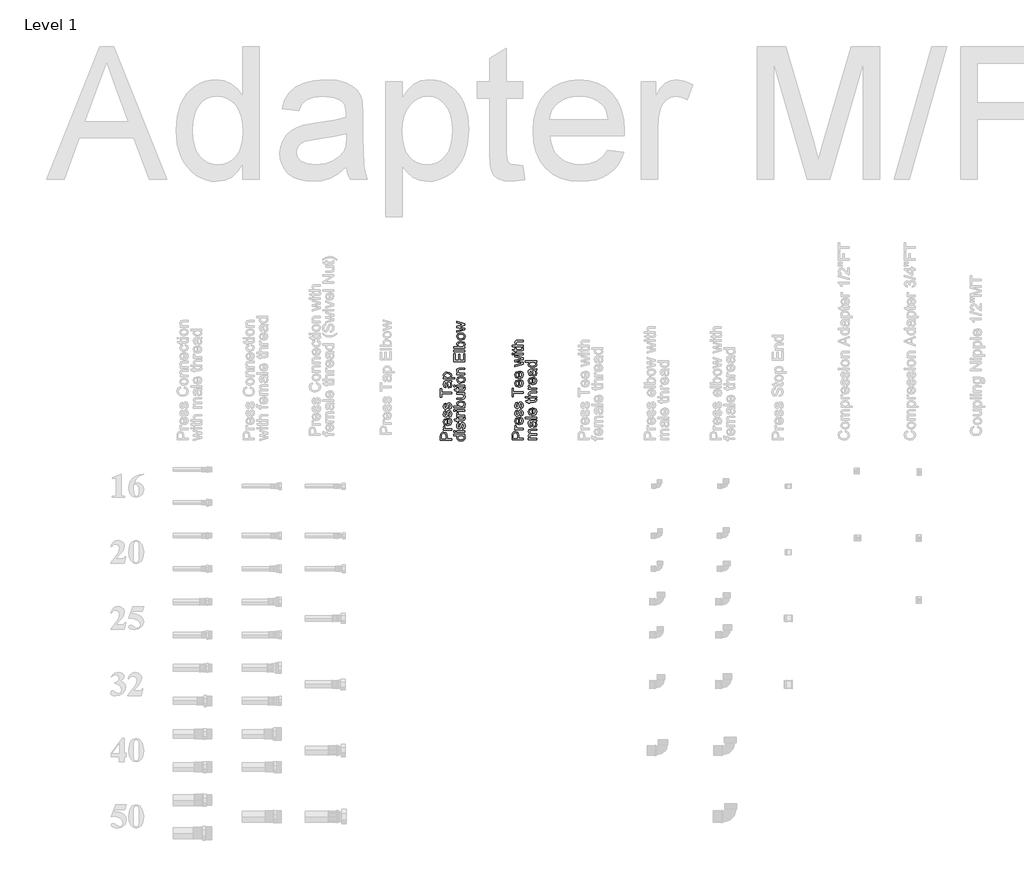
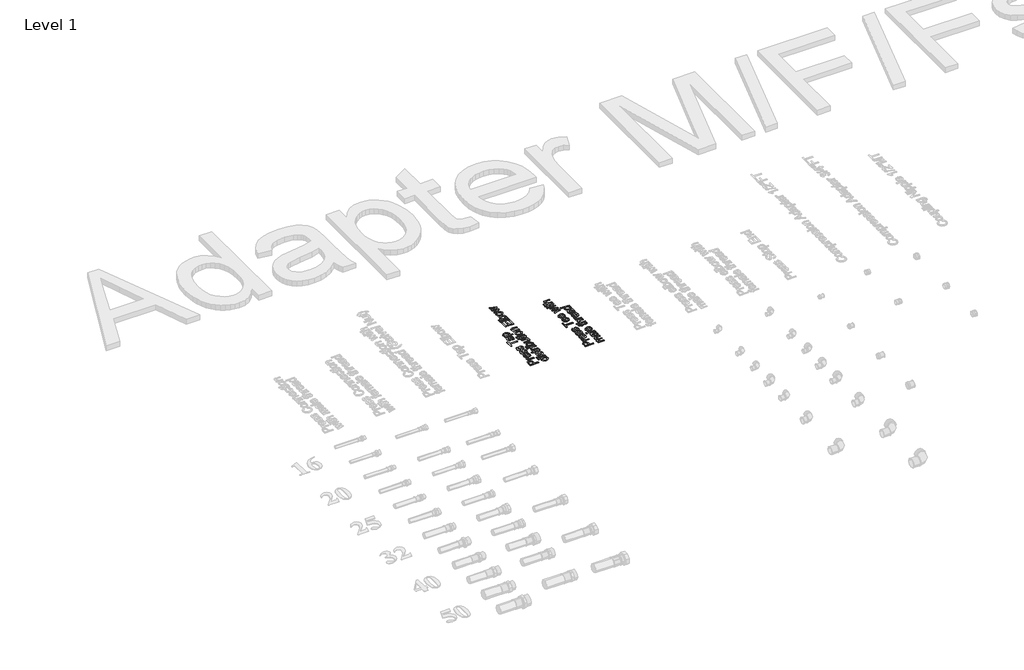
# One storey, part 43 of 57: 2 proxies.
"""IFC4 building model written with IfcOpenShell, lengths in millimetres."""

from ifc_helpers import new_model, si_unit, frame, origin, place, context, project, spatial, polyline, outline, extrude, element, save

model = new_model("IFC4")

# Units and contexts
model_context = context("Model", 3, world=origin())
ifc_project = project(units=[si_unit("LENGTHUNIT", "METRE", prefix="MILLI")], contexts=[model_context])

# Site, building, storey
site = spatial("IfcSite", under=ifc_project)
building = spatial("IfcBuilding", under=site)
storey = spatial("IfcBuildingStorey", under=building, Name="Level 1", Elevation=27.3876384)

# Proxies
placement = place(None, origin())
element("IfcBuildingElementProxy", 1, Name="50mm Arial", ObjectType="50mm Arial", at=placement, inside=storey, context=model_context, shape_type="SweptSolid", body=[
    extrude(outline(polyline([(30614.4451568, 30403.4276086), (30564.2170017, 30403.4276086), (30564.2170017, 30422.0424376), (30564.6952483, 30429.5472303), (30567.0435617, 30435.64794), (30571.8996041, 30439.6026715), (30578.7483405, 30441.0987249), (30589.6008594, 30437.0581543), (30594.0399688, 30422.4716332), (30594.0399688, 30409.706128), (30614.4451568, 30409.706128), (30614.4451568, 30403.4276086)]), holes=[polyline([(30587.7614494, 30409.706128), (30587.7614494, 30422.8395152), (30585.4560556, 30432.085616), (30578.9690697, 30434.8202055), (30573.7696709, 30433.2076561), (30570.9247168, 30428.9708818), (30570.4955211, 30422.6923624), (30570.4955211, 30409.706128), (30587.7614494, 30409.706128)])]), frame((0.0, 0.0, 27.3876384), z_axis=(0.0, 0.0, 1.0), x_axis=(1.0, 0.0, 0.0)), (0.0, 0.0, 1.0), 2.0),
    extrude(outline(polyline([(30614.4451568, 30448.9468741), (30577.5588554, 30448.9468741), (30577.5588554, 30454.4405786), (30583.0157717, 30454.4405786), (30577.9880511, 30458.3401278), (30576.7740405, 30462.2642024), (30578.7115523, 30468.5672472), (30584.3401469, 30466.4703199), (30583.0525599, 30462.0557359), (30584.2910959, 30458.5056747), (30587.7246612, 30456.2432004), (30595.0577757, 30455.2253935), (30614.4451568, 30455.2253935), (30614.4451568, 30448.9468741)])), frame((0.0, 0.0, 27.3876384), z_axis=(0.0, 0.0, 1.0), x_axis=(1.0, 0.0, 0.0)), (0.0, 0.0, 1.0), 2.0),
    extrude(outline(polyline([(30603.4577479, 30498.3166379), (30604.2425628, 30504.47253), (30612.3482294, 30498.7151767), (30615.2299717, 30487.9914166), (30610.2574334, 30474.9561312), (30596.3085744, 30470.1368771), (30581.899863, 30475.0051821), (30576.7740405, 30487.6357973), (30581.8876002, 30499.9046618), (30596.2717862, 30504.6687337), (30597.9640434, 30504.6319455), (30597.9640434, 30476.4153965), (30606.118761, 30480.0267714), (30608.9514523, 30488.1140439), (30607.6393399, 30494.269936), (30603.4577479, 30498.3166379)]), holes=[polyline([(30591.685524, 30476.4153965), (30591.685524, 30498.3902143), (30585.9956158, 30495.876354), (30583.0525599, 30487.6112718), (30585.4008733, 30479.8796186), (30591.685524, 30476.4153965)])]), frame((0.0, 0.0, 27.3876384), z_axis=(0.0, 0.0, 1.0), x_axis=(1.0, 0.0, 0.0)), (0.0, 0.0, 1.0), 2.0),
    extrude(outline(polyline([(30603.4577479, 30508.5928083), (30602.672933, 30514.8713277), (30607.3327716, 30517.7775954), (30608.9514523, 30524.4362596), (30607.4676616, 30530.8374063), (30603.9850454, 30532.9220709), (30601.1646168, 30530.8251435), (30599.3742577, 30524.3626832), (30596.3024431, 30514.9081159), (30592.7155936, 30510.7817062), (30587.6510848, 30509.3776232), (30582.9728521, 30510.5057947), (30579.3982654, 30513.5837407), (30577.5404613, 30517.5752603), (30576.7740405, 30522.9769943), (30578.0064452, 30530.6166771), (30581.3419086, 30535.4727194), (30586.9766345, 30537.6309605), (30587.7614494, 30531.3524411), (30584.2972273, 30528.9918649), (30583.0525599, 30523.4675036), (30584.242045, 30517.4587644), (30587.0134227, 30515.6561426), (30588.8405699, 30516.4041693), (30590.2262588, 30518.7463514), (30591.5628967, 30524.1542167), (30594.5182154, 30533.3696607), (30597.8659416, 30537.6493546), (30603.3228578, 30539.2005903), (30609.3315971, 30537.3795744), (30613.6909987, 30532.1249933), (30615.2299717, 30524.3504204), (30612.2623903, 30513.3997997), (30603.4577479, 30508.5928083)])), frame((0.0, 0.0, 27.3876384), z_axis=(0.0, 0.0, 1.0), x_axis=(1.0, 0.0, 0.0)), (0.0, 0.0, 1.0), 2.0),
    extrude(outline(polyline([(30603.4577479, 30543.9094798), (30602.672933, 30550.1879992), (30607.3327716, 30553.094267), (30608.9514523, 30559.7529311), (30607.4676616, 30566.1540778), (30603.9850454, 30568.2387424), (30601.1646168, 30566.1418151), (30599.3742577, 30559.6793547), (30596.3024431, 30550.2247874), (30592.7155936, 30546.0983777), (30587.6510848, 30544.6942948), (30582.9728521, 30545.8224662), (30579.3982654, 30548.9004122), (30577.5404613, 30552.8919319), (30576.7740405, 30558.2936658), (30578.0064452, 30565.9333486), (30581.3419086, 30570.7893909), (30586.9766345, 30572.947632), (30587.7614494, 30566.6691126), (30584.2972273, 30564.3085365), (30583.0525599, 30558.7841752), (30584.242045, 30552.7754359), (30587.0134227, 30550.9728141), (30588.8405699, 30551.7208409), (30590.2262588, 30554.0630229), (30591.5628967, 30559.4708882), (30594.5182154, 30568.6863322), (30597.8659416, 30572.9660261), (30603.3228578, 30574.5172618), (30609.3315971, 30572.696246), (30613.6909987, 30567.4416648), (30615.2299717, 30559.667092), (30612.2623903, 30548.7164712), (30603.4577479, 30543.9094798)])), frame((0.0, 0.0, 27.3876384), z_axis=(0.0, 0.0, 1.0), x_axis=(1.0, 0.0, 0.0)), (0.0, 0.0, 1.0), 2.0),
    extrude(outline(polyline([(30614.4451568, 30614.5428229), (30570.4955211, 30614.5428229), (30570.4955211, 30598.0617095), (30564.2170017, 30598.0617095), (30564.2170017, 30637.3024557), (30570.4955211, 30637.3024557), (30570.4955211, 30620.8213423), (30614.4451568, 30620.8213423), (30614.4451568, 30614.5428229)])), frame((0.0, 0.0, 27.3876384), z_axis=(0.0, 0.0, 1.0), x_axis=(1.0, 0.0, 0.0)), (0.0, 0.0, 1.0), 2.0),
    extrude(outline(polyline([(30609.7362673, 30667.1254228), (30613.9914357, 30661.0369757), (30615.2299717, 30654.3108666), (30612.2501276, 30645.1935245), (30604.6349703, 30642.0113452), (30599.6685633, 30643.2130931), (30596.0633198, 30646.3707469), (30594.0031806, 30650.7669367), (30593.0589502, 30656.1993275), (30590.9007091, 30667.0886346), (30584.8674444, 30665.3963774), (30583.0525599, 30658.4556704), (30584.2604391, 30652.1035746), (30588.5462643, 30649.0746795), (30587.7614494, 30642.7961601), (30581.6300828, 30645.5123555), (30578.037102, 30650.9815345), (30576.7740405, 30659.2650108), (30577.8899492, 30666.8740367), (30580.6919837, 30671.1721247), (30584.9532835, 30673.0973738), (30590.446988, 30673.4039421), (30598.258349, 30673.4039421), (30609.1660502, 30673.7227732), (30614.4451568, 30674.973572), (30614.4451568, 30668.6950526), (30609.7362673, 30667.1254228)]), holes=[polyline([(30597.1792285, 30667.1254228), (30599.1044776, 30656.9964052), (30600.1222845, 30651.5946712), (30601.7777534, 30649.1482559), (30604.1935119, 30648.2898646), (30607.590289, 30650.1599314), (30608.9514523, 30655.6475045), (30607.4492675, 30661.9996003), (30603.8133671, 30666.0953532), (30598.9573248, 30667.0886346), (30597.1792285, 30667.1254228)])]), frame((0.0, 0.0, 27.3876384), z_axis=(0.0, 0.0, 1.0), x_axis=(1.0, 0.0, 0.0)), (0.0, 0.0, 1.0), 2.0),
    extrude(outline(polyline([(30628.5718254, 30682.0369063), (30577.5588554, 30682.0369063), (30577.5588554, 30688.3154257), (30583.7147475, 30688.3154257), (30578.5092172, 30692.6564332), (30576.7740405, 30698.5180197), (30579.2020617, 30706.4765335), (30586.0446668, 30711.6759324), (30595.7199633, 30713.4295032), (30605.8919004, 30711.4490718), (30612.8203447, 30705.6978499), (30615.2299717, 30697.7577302), (30613.6174223, 30692.2946826), (30609.5400635, 30688.3154257), (30628.5718254, 30688.3154257), (30628.5718254, 30682.0369063)]), holes=[polyline([(30596.2963117, 30688.3154257), (30605.8612436, 30691.0316211), (30608.9514523, 30697.6228402), (30605.750879, 30704.3489493), (30595.8303278, 30707.1509838), (30586.2408705, 30704.4163943), (30583.0525599, 30697.8803576), (30586.4432056, 30691.2155621), (30596.2963117, 30688.3154257)])]), frame((0.0, 0.0, 27.3876384), z_axis=(0.0, 0.0, 1.0), x_axis=(1.0, 0.0, 0.0)), (0.0, 0.0, 1.0), 2.0),
    extrude(outline(polyline([(30675.4325657, 30425.4024265), (30669.5096656, 30425.4024265), (30674.5404519, 30421.2484256), (30676.2173807, 30415.5064008), (30673.7893595, 30407.731828), (30667.0141994, 30402.2381235), (30657.0262032, 30400.2883489), (30647.0320757, 30402.0848393), (30640.1526824, 30407.4681792), (30637.7614494, 30415.4818753), (30639.4721007, 30421.2698854), (30643.9173415, 30425.4024265), (30625.2044107, 30425.4024265), (30625.2044107, 30431.6809458), (30675.4325657, 30431.6809458), (30675.4325657, 30425.4024265)]), holes=[polyline([(30657.0016778, 30406.5668683), (30666.7198938, 30409.3995597), (30669.9388613, 30416.0827492), (30666.8670466, 30422.6862311), (30657.4799244, 30425.4024265), (30647.2895931, 30422.6371801), (30644.0399688, 30415.8252318), (30647.1608344, 30409.2156187), (30657.0016778, 30406.5668683)])]), frame((0.0, 0.0, 27.3876384), z_axis=(0.0, 0.0, 1.0), x_axis=(1.0, 0.0, 0.0)), (0.0, 0.0, 1.0), 2.0),
    extrude(outline(polyline([(30631.48293, 30441.0987249), (30625.2044107, 30441.0987249), (30625.2044107, 30447.3772443), (30631.48293, 30447.3772443), (30631.48293, 30441.0987249)])), frame((0.0, 0.0, 27.3876384), z_axis=(0.0, 0.0, 1.0), x_axis=(1.0, 0.0, 0.0)), (0.0, 0.0, 1.0), 2.0),
    extrude(outline(polyline([(30675.4325657, 30441.0987249), (30638.5462643, 30441.0987249), (30638.5462643, 30447.3772443), (30675.4325657, 30447.3772443), (30675.4325657, 30441.0987249)])), frame((0.0, 0.0, 27.3876384), z_axis=(0.0, 0.0, 1.0), x_axis=(1.0, 0.0, 0.0)), (0.0, 0.0, 1.0), 2.0),
    extrude(outline(polyline([(30664.4451568, 30454.4405786), (30663.6603419, 30460.719098), (30668.3201805, 30463.6253658), (30669.9388613, 30470.2840299), (30668.4550706, 30476.6851766), (30664.9724543, 30478.7698412), (30662.1520257, 30476.6729139), (30660.3616667, 30470.2104535), (30657.289852, 30460.7558862), (30653.7030025, 30456.6294765), (30648.6384937, 30455.2253935), (30643.960261, 30456.353565), (30640.3856743, 30459.431511), (30638.5278702, 30463.4230307), (30637.7614494, 30468.8247646), (30638.9938541, 30476.4644474), (30642.3293175, 30481.3204897), (30647.9640434, 30483.4787308), (30648.7488583, 30477.2002114), (30645.2846362, 30474.8396352), (30644.0399688, 30469.3152739), (30645.2294539, 30463.3065347), (30648.0008316, 30461.5039129), (30649.8279789, 30462.2519396), (30651.2136677, 30464.5941217), (30652.5503056, 30470.001987), (30655.5056243, 30479.217431), (30658.8533505, 30483.4971249), (30664.3102667, 30485.0483606), (30670.319006, 30483.2273447), (30674.6784076, 30477.9727636), (30676.2173807, 30470.1981907), (30673.2497992, 30459.24757), (30664.4451568, 30454.4405786)])), frame((0.0, 0.0, 27.3876384), z_axis=(0.0, 0.0, 1.0), x_axis=(1.0, 0.0, 0.0)), (0.0, 0.0, 1.0), 2.0),
    extrude(outline(polyline([(30670.1963787, 30505.4535486), (30675.6165067, 30506.2383635), (30676.2173807, 30501.5417367), (30675.1750483, 30496.2810242), (30672.4404588, 30493.6567993), (30665.3158109, 30492.8965098), (30644.8247837, 30492.8965098), (30644.8247837, 30488.1876203), (30638.5462643, 30488.1876203), (30638.5462643, 30492.8965098), (30629.5822064, 30492.8965098), (30625.8911237, 30499.1750292), (30638.5462643, 30499.1750292), (30638.5462643, 30505.4535486), (30644.8247837, 30505.4535486), (30644.8247837, 30499.1750292), (30665.1318699, 30499.1750292), (30668.3692314, 30499.506123), (30669.9388613, 30502.7189591), (30670.1963787, 30505.4535486)])), frame((0.0, 0.0, 27.3876384), z_axis=(0.0, 0.0, 1.0), x_axis=(1.0, 0.0, 0.0)), (0.0, 0.0, 1.0), 2.0),
    extrude(outline(polyline([(30675.4325657, 30511.732068), (30638.5462643, 30511.732068), (30638.5462643, 30517.2257725), (30644.0031806, 30517.2257725), (30638.97546, 30521.1253216), (30637.7614494, 30525.0493962), (30639.6989613, 30531.3524411), (30645.3275558, 30529.2555137), (30644.0399688, 30524.8409298), (30645.2785049, 30521.2908685), (30648.7120701, 30519.0283942), (30656.0451846, 30518.0105874), (30675.4325657, 30518.0105874), (30675.4325657, 30511.732068)])), frame((0.0, 0.0, 27.3876384), z_axis=(0.0, 0.0, 1.0), x_axis=(1.0, 0.0, 0.0)), (0.0, 0.0, 1.0), 2.0),
    extrude(outline(polyline([(30631.48293, 30535.2765157), (30625.2044107, 30535.2765157), (30625.2044107, 30541.5550351), (30631.48293, 30541.5550351), (30631.48293, 30535.2765157)])), frame((0.0, 0.0, 27.3876384), z_axis=(0.0, 0.0, 1.0), x_axis=(1.0, 0.0, 0.0)), (0.0, 0.0, 1.0), 2.0),
    extrude(outline(polyline([(30675.4325657, 30535.2765157), (30638.5462643, 30535.2765157), (30638.5462643, 30541.5550351), (30675.4325657, 30541.5550351), (30675.4325657, 30535.2765157)])), frame((0.0, 0.0, 27.3876384), z_axis=(0.0, 0.0, 1.0), x_axis=(1.0, 0.0, 0.0)), (0.0, 0.0, 1.0), 2.0),
    extrude(outline(polyline([(30675.4325657, 30557.2513335), (30675.4325657, 30550.9728141), (30625.2044107, 30550.9728141), (30625.2044107, 30557.2513335), (30643.8315023, 30557.2513335), (30637.7614494, 30567.110571), (30639.1287442, 30573.4013531), (30642.973111, 30578.2819209), (30648.9511934, 30581.2801592), (30656.437592, 30582.3654111), (30671.05477, 30577.8711194), (30676.2173807, 30567.0737828), (30674.5527146, 30561.4911735), (30669.5587165, 30557.2513335), (30675.4325657, 30557.2513335)]), holes=[polyline([(30656.7318976, 30557.2513335), (30665.5120146, 30558.9681162), (30669.9388613, 30566.5342225), (30666.6769742, 30573.2542003), (30656.9526268, 30576.0868917), (30647.1914912, 30573.3706963), (30644.0399688, 30566.8040027), (30647.3018558, 30560.0840249), (30656.7318976, 30557.2513335)])]), frame((0.0, 0.0, 27.3876384), z_axis=(0.0, 0.0, 1.0), x_axis=(1.0, 0.0, 0.0)), (0.0, 0.0, 1.0), 2.0),
    extrude(outline(polyline([(30675.4325657, 30612.9731931), (30669.0927327, 30612.9731931), (30674.4362187, 30608.0558371), (30676.2173807, 30601.6424276), (30674.9665819, 30595.7379216), (30671.8273222, 30591.6666942), (30667.2042718, 30589.7966274), (30661.3672108, 30589.4287454), (30638.5462643, 30589.4287454), (30638.5462643, 30595.7072648), (30658.4118921, 30595.7072648), (30664.8130388, 30596.0874095), (30668.5715665, 30598.570613), (30669.9388613, 30603.2488457), (30668.5409097, 30608.4911641), (30664.733331, 30611.9553862), (30657.7374418, 30612.9731931), (30638.5462643, 30612.9731931), (30638.5462643, 30619.2517124), (30675.4325657, 30619.2517124), (30675.4325657, 30612.9731931)])), frame((0.0, 0.0, 27.3876384), z_axis=(0.0, 0.0, 1.0), x_axis=(1.0, 0.0, 0.0)), (0.0, 0.0, 1.0), 2.0),
    extrude(outline(polyline([(30670.1963787, 30641.2265303), (30675.6165067, 30642.0113452), (30676.2173807, 30637.3147184), (30675.1750483, 30632.0540059), (30672.4404588, 30629.429781), (30665.3158109, 30628.6694915), (30644.8247837, 30628.6694915), (30644.8247837, 30623.960602), (30638.5462643, 30623.960602), (30638.5462643, 30628.6694915), (30629.5822064, 30628.6694915), (30625.8911237, 30634.9480109), (30638.5462643, 30634.9480109), (30638.5462643, 30641.2265303), (30644.8247837, 30641.2265303), (30644.8247837, 30634.9480109), (30665.1318699, 30634.9480109), (30668.3692314, 30635.2791047), (30669.9388613, 30638.4919408), (30670.1963787, 30641.2265303)])), frame((0.0, 0.0, 27.3876384), z_axis=(0.0, 0.0, 1.0), x_axis=(1.0, 0.0, 0.0)), (0.0, 0.0, 1.0), 2.0),
    extrude(outline(polyline([(30631.48293, 30647.5050497), (30625.2044107, 30647.5050497), (30625.2044107, 30653.7835691), (30631.48293, 30653.7835691), (30631.48293, 30647.5050497)])), frame((0.0, 0.0, 27.3876384), z_axis=(0.0, 0.0, 1.0), x_axis=(1.0, 0.0, 0.0)), (0.0, 0.0, 1.0), 2.0),
    extrude(outline(polyline([(30675.4325657, 30647.5050497), (30638.5462643, 30647.5050497), (30638.5462643, 30653.7835691), (30675.4325657, 30653.7835691), (30675.4325657, 30647.5050497)])), frame((0.0, 0.0, 27.3876384), z_axis=(0.0, 0.0, 1.0), x_axis=(1.0, 0.0, 0.0)), (0.0, 0.0, 1.0), 2.0),
    extrude(outline(polyline([(30656.989415, 30661.6317183), (30648.0958678, 30662.989816), (30641.8449396, 30667.0641091), (30637.7614494, 30678.1250944), (30642.7339877, 30689.9892888), (30656.4743802, 30694.5939451), (30667.6457302, 30692.5583314), (30673.9671691, 30686.6292999), (30676.2173807, 30678.1250944), (30671.2632364, 30666.1873237), (30656.989415, 30661.6317183)]), holes=[polyline([(30656.9771523, 30667.9102377), (30666.7076311, 30670.8165054), (30669.9388613, 30678.1250944), (30666.689237, 30685.4091579), (30656.7809486, 30688.3154257), (30647.271199, 30685.3907638), (30644.0399688, 30678.1250944), (30647.2589363, 30670.8165054), (30656.9771523, 30667.9102377)])]), frame((0.0, 0.0, 27.3876384), z_axis=(0.0, 0.0, 1.0), x_axis=(1.0, 0.0, 0.0)), (0.0, 0.0, 1.0), 2.0),
    extrude(outline(polyline([(30675.4325657, 30701.6572794), (30638.5462643, 30701.6572794), (30638.5462643, 30707.9357988), (30643.6966123, 30707.9357988), (30639.2452401, 30712.7366588), (30637.7614494, 30719.2910897), (30638.9570659, 30725.2201212), (30642.0963256, 30729.2668231), (30646.7132446, 30731.1491526), (30652.7832976, 30731.4802464), (30675.4325657, 30731.4802464), (30675.4325657, 30725.2017271), (30653.6294261, 30725.2017271), (30648.074408, 30724.4782258), (30645.1374834, 30721.9214459), (30644.0399688, 30717.6110952), (30646.5047782, 30710.7991469), (30655.8612436, 30707.9357988), (30675.4325657, 30707.9357988), (30675.4325657, 30701.6572794)])), frame((0.0, 0.0, 27.3876384), z_axis=(0.0, 0.0, 1.0), x_axis=(1.0, 0.0, 0.0)), (0.0, 0.0, 1.0), 2.0),
    extrude(outline(polyline([(30675.4325657, 30760.5183986), (30625.2044107, 30760.5183986), (30625.2044107, 30796.6198851), (30631.48293, 30796.6198851), (30631.48293, 30766.796918), (30646.3944136, 30766.796918), (30646.3944136, 30795.0502552), (30652.672933, 30795.0502552), (30652.672933, 30766.796918), (30669.1540463, 30766.796918), (30669.1540463, 30797.4047), (30675.4325657, 30797.4047), (30675.4325657, 30760.5183986)])), frame((0.0, 0.0, 27.3876384), z_axis=(0.0, 0.0, 1.0), x_axis=(1.0, 0.0, 0.0)), (0.0, 0.0, 1.0), 2.0),
    extrude(outline(polyline([(30675.4325657, 30806.0376641), (30625.2044107, 30806.0376641), (30625.2044107, 30812.3161835), (30675.4325657, 30812.3161835), (30675.4325657, 30806.0376641)])), frame((0.0, 0.0, 27.3876384), z_axis=(0.0, 0.0, 1.0), x_axis=(1.0, 0.0, 0.0)), (0.0, 0.0, 1.0), 2.0),
    extrude(outline(polyline([(30675.4325657, 30828.012482), (30675.4325657, 30821.7339626), (30625.2044107, 30821.7339626), (30625.2044107, 30828.012482), (30643.8315023, 30828.012482), (30637.7614494, 30837.8717194), (30639.1287442, 30844.1625016), (30642.973111, 30849.0430694), (30648.9511934, 30852.0413076), (30656.437592, 30853.1265595), (30671.05477, 30848.6322678), (30676.2173807, 30837.8349312), (30674.5527146, 30832.252322), (30669.5587165, 30828.012482), (30675.4325657, 30828.012482)]), holes=[polyline([(30656.7318976, 30828.012482), (30665.5120146, 30829.7292646), (30669.9388613, 30837.295371), (30666.6769742, 30844.0153488), (30656.9526268, 30846.8480401), (30647.1914912, 30844.1318447), (30644.0399688, 30837.5651511), (30647.3018558, 30830.8451733), (30656.7318976, 30828.012482)])]), frame((0.0, 0.0, 27.3876384), z_axis=(0.0, 0.0, 1.0), x_axis=(1.0, 0.0, 0.0)), (0.0, 0.0, 1.0), 2.0),
    extrude(outline(polyline([(30656.989415, 30858.620264), (30648.0958678, 30859.9783617), (30641.8449396, 30864.0526548), (30637.7614494, 30875.1136401), (30642.7339877, 30886.9778344), (30656.4743802, 30891.5824907), (30667.6457302, 30889.546877), (30673.9671691, 30883.6178455), (30676.2173807, 30875.1136401), (30671.2632364, 30863.1758693), (30656.989415, 30858.620264)]), holes=[polyline([(30656.9771523, 30864.8987834), (30666.7076311, 30867.8050511), (30669.9388613, 30875.1136401), (30666.689237, 30882.3977036), (30656.7809486, 30885.3039714), (30647.271199, 30882.3793095), (30644.0399688, 30875.1136401), (30647.2589363, 30867.8050511), (30656.9771523, 30864.8987834)])]), frame((0.0, 0.0, 27.3876384), z_axis=(0.0, 0.0, 1.0), x_axis=(1.0, 0.0, 0.0)), (0.0, 0.0, 1.0), 2.0),
    extrude(outline(polyline([(30675.4325657, 30904.7649289), (30638.5462643, 30893.5445281), (30638.5462643, 30900.0683021), (30660.0673611, 30906.4326606), (30667.7560948, 30908.3333843), (30660.3494039, 30909.8907514), (30638.5462643, 30914.9552602), (30638.5462643, 30922.4355274), (30660.2880903, 30927.4755107), (30666.9958053, 30928.8611996), (30659.9202083, 30930.8477624), (30638.5462643, 30937.2243836), (30638.5462643, 30943.7726831), (30675.4325657, 30932.4664431), (30675.4325657, 30924.8758113), (30653.8011044, 30920.0565572), (30647.0566012, 30918.6586056), (30675.4325657, 30912.4413999), (30675.4325657, 30904.7649289)])), frame((0.0, 0.0, 27.3876384), z_axis=(0.0, 0.0, 1.0), x_axis=(1.0, 0.0, 0.0)), (0.0, 0.0, 1.0), 2.0),
])
element("IfcBuildingElementProxy", 2, Name="50mm Arial", ObjectType="50mm Arial", at=placement, inside=storey, context=model_context, shape_type="SweptSolid", body=[
    extrude(outline(polyline([(30939.1417262, 30406.8112945), (30888.9135711, 30406.8112945), (30888.9135711, 30425.4261235), (30889.3918177, 30432.9309162), (30891.7401311, 30439.0316259), (30896.5961734, 30442.9863574), (30903.4449099, 30444.4824108), (30914.2974288, 30440.4418402), (30918.7365382, 30425.8553191), (30918.7365382, 30413.0898139), (30939.1417262, 30413.0898139), (30939.1417262, 30406.8112945)]), holes=[polyline([(30912.4580188, 30413.0898139), (30912.4580188, 30426.2232011), (30910.152625, 30435.4693019), (30903.6656391, 30438.2038914), (30898.4662402, 30436.591342), (30895.6212861, 30432.3545677), (30895.1920905, 30426.0760483), (30895.1920905, 30413.0898139), (30912.4580188, 30413.0898139)])]), frame((0.0, 0.0, 27.3876384), z_axis=(0.0, 0.0, 1.0), x_axis=(1.0, 0.0, 0.0)), (0.0, 0.0, 1.0), 2.0),
    extrude(outline(polyline([(30939.1417262, 30452.33056), (30902.2554248, 30452.33056), (30902.2554248, 30457.8242645), (30907.7123411, 30457.8242645), (30902.6846205, 30461.7238137), (30901.4706099, 30465.6478883), (30903.4081217, 30471.9509331), (30909.0367162, 30469.8540057), (30907.7491293, 30465.4394218), (30908.9876653, 30461.8893606), (30912.4212306, 30459.6268863), (30919.754345, 30458.6090794), (30939.1417262, 30458.6090794), (30939.1417262, 30452.33056)])), frame((0.0, 0.0, 27.3876384), z_axis=(0.0, 0.0, 1.0), x_axis=(1.0, 0.0, 0.0)), (0.0, 0.0, 1.0), 2.0),
    extrude(outline(polyline([(30928.1543173, 30501.7003238), (30928.9391322, 30507.8562159), (30937.0447988, 30502.0988626), (30939.9265411, 30491.3751025), (30934.9540028, 30478.3398171), (30921.0051438, 30473.520563), (30906.5964323, 30478.388868), (30901.4706099, 30491.0194832), (30906.5841696, 30503.2883477), (30920.9683556, 30508.0524196), (30922.6606128, 30508.0156314), (30922.6606128, 30479.7990824), (30930.8153304, 30483.4104573), (30933.6480217, 30491.4977298), (30932.3359093, 30497.6536219), (30928.1543173, 30501.7003238)]), holes=[polyline([(30916.3820934, 30479.7990824), (30916.3820934, 30501.7739002), (30910.6921852, 30499.2600399), (30907.7491293, 30490.9949577), (30910.0974427, 30483.2633045), (30916.3820934, 30479.7990824)])]), frame((0.0, 0.0, 27.3876384), z_axis=(0.0, 0.0, 1.0), x_axis=(1.0, 0.0, 0.0)), (0.0, 0.0, 1.0), 2.0),
    extrude(outline(polyline([(30928.1543173, 30511.9764942), (30927.3695023, 30518.2550136), (30932.0293409, 30521.1612813), (30933.6480217, 30527.8199455), (30932.164231, 30534.2210922), (30928.6816148, 30536.3057568), (30925.8611862, 30534.2088294), (30924.0708271, 30527.7463691), (30920.9990124, 30518.2918018), (30917.412163, 30514.1653921), (30912.3476542, 30512.7613091), (30907.6694215, 30513.8894806), (30904.0948348, 30516.9674266), (30902.2370307, 30520.9589462), (30901.4706099, 30526.3606802), (30902.7030146, 30534.000363), (30906.038478, 30538.8564053), (30911.6732039, 30541.0146464), (30912.4580188, 30534.736127), (30908.9937967, 30532.3755508), (30907.7491293, 30526.8511895), (30908.9386144, 30520.8424503), (30911.7099921, 30519.0398285), (30913.5371393, 30519.7878552), (30914.9228282, 30522.1300373), (30916.2594661, 30527.5379026), (30919.2147848, 30536.7533466), (30922.5625109, 30541.0330404), (30928.0194272, 30542.5842762), (30934.0281664, 30540.7632603), (30938.3875681, 30535.5086792), (30939.9265411, 30527.7341063), (30936.9589597, 30516.7834856), (30928.1543173, 30511.9764942)])), frame((0.0, 0.0, 27.3876384), z_axis=(0.0, 0.0, 1.0), x_axis=(1.0, 0.0, 0.0)), (0.0, 0.0, 1.0), 2.0),
    extrude(outline(polyline([(30928.1543173, 30547.2931657), (30927.3695023, 30553.5716851), (30932.0293409, 30556.4779529), (30933.6480217, 30563.136617), (30932.164231, 30569.5377637), (30928.6816148, 30571.6224283), (30925.8611862, 30569.525501), (30924.0708271, 30563.0630406), (30920.9990124, 30553.6084733), (30917.412163, 30549.4820636), (30912.3476542, 30548.0779807), (30907.6694215, 30549.2061521), (30904.0948348, 30552.2840981), (30902.2370307, 30556.2756178), (30901.4706099, 30561.6773517), (30902.7030146, 30569.3170345), (30906.038478, 30574.1730768), (30911.6732039, 30576.3313179), (30912.4580188, 30570.0527985), (30908.9937967, 30567.6922224), (30907.7491293, 30562.1678611), (30908.9386144, 30556.1591218), (30911.7099921, 30554.3565), (30913.5371393, 30555.1045268), (30914.9228282, 30557.4467088), (30916.2594661, 30562.8545741), (30919.2147848, 30572.0700181), (30922.5625109, 30576.349712), (30928.0194272, 30577.9009477), (30934.0281664, 30576.0799319), (30938.3875681, 30570.8253507), (30939.9265411, 30563.0507779), (30936.9589597, 30552.1001571), (30928.1543173, 30547.2931657)])), frame((0.0, 0.0, 27.3876384), z_axis=(0.0, 0.0, 1.0), x_axis=(1.0, 0.0, 0.0)), (0.0, 0.0, 1.0), 2.0),
    extrude(outline(polyline([(30939.1417262, 30617.9265088), (30895.1920905, 30617.9265088), (30895.1920905, 30601.4453954), (30888.9135711, 30601.4453954), (30888.9135711, 30640.6861416), (30895.1920905, 30640.6861416), (30895.1920905, 30624.2050282), (30939.1417262, 30624.2050282), (30939.1417262, 30617.9265088)])), frame((0.0, 0.0, 27.3876384), z_axis=(0.0, 0.0, 1.0), x_axis=(1.0, 0.0, 0.0)), (0.0, 0.0, 1.0), 2.0),
    extrude(outline(polyline([(30928.1543173, 30672.789977), (30928.9391322, 30678.9458691), (30937.0447988, 30673.1885159), (30939.9265411, 30662.4647557), (30934.9540028, 30649.4294703), (30921.0051438, 30644.6102162), (30906.5964323, 30649.4785213), (30901.4706099, 30662.1091364), (30906.5841696, 30674.378001), (30920.9683556, 30679.1420728), (30922.6606128, 30679.1052846), (30922.6606128, 30650.8887356), (30930.8153304, 30654.5001105), (30933.6480217, 30662.587383), (30932.3359093, 30668.7432751), (30928.1543173, 30672.789977)]), holes=[polyline([(30916.3820934, 30650.8887356), (30916.3820934, 30672.8635534), (30910.6921852, 30670.3496931), (30907.7491293, 30662.084611), (30910.0974427, 30654.3529577), (30916.3820934, 30650.8887356)])]), frame((0.0, 0.0, 27.3876384), z_axis=(0.0, 0.0, 1.0), x_axis=(1.0, 0.0, 0.0)), (0.0, 0.0, 1.0), 2.0),
    extrude(outline(polyline([(30928.1543173, 30711.2459083), (30928.9391322, 30717.4018003), (30937.0447988, 30711.6444471), (30939.9265411, 30700.9206869), (30934.9540028, 30687.8854016), (30921.0051438, 30683.0661474), (30906.5964323, 30687.9344525), (30901.4706099, 30700.5650677), (30906.5841696, 30712.8339322), (30920.9683556, 30717.598004), (30922.6606128, 30717.5612158), (30922.6606128, 30689.3446668), (30930.8153304, 30692.9560417), (30933.6480217, 30701.0433143), (30932.3359093, 30707.1992063), (30928.1543173, 30711.2459083)]), holes=[polyline([(30916.3820934, 30689.3446668), (30916.3820934, 30711.3194847), (30910.6921852, 30708.8056244), (30907.7491293, 30700.5405422), (30910.0974427, 30692.8088889), (30916.3820934, 30689.3446668)])]), frame((0.0, 0.0, 27.3876384), z_axis=(0.0, 0.0, 1.0), x_axis=(1.0, 0.0, 0.0)), (0.0, 0.0, 1.0), 2.0),
    extrude(outline(polyline([(30939.1417262, 30749.6160003), (30902.2554248, 30738.3955995), (30902.2554248, 30744.9193735), (30923.7765215, 30751.2837321), (30931.4652552, 30753.1844557), (30924.0585644, 30754.7418228), (30902.2554248, 30759.8063316), (30902.2554248, 30767.2865989), (30923.9972507, 30772.3265822), (30930.7049658, 30773.712271), (30923.6293687, 30775.6988338), (30902.2554248, 30782.0754551), (30902.2554248, 30788.6237546), (30939.1417262, 30777.3175146), (30939.1417262, 30769.7268828), (30917.5102649, 30764.9076286), (30910.7657616, 30763.509677), (30939.1417262, 30757.2924713), (30939.1417262, 30749.6160003)])), frame((0.0, 0.0, 27.3876384), z_axis=(0.0, 0.0, 1.0), x_axis=(1.0, 0.0, 0.0)), (0.0, 0.0, 1.0), 2.0),
    extrude(outline(polyline([(30939.1417262, 30792.9402366), (30902.2554248, 30792.9402366), (30902.2554248, 30799.218756), (30939.1417262, 30799.218756), (30939.1417262, 30792.9402366)])), frame((0.0, 0.0, 27.3876384), z_axis=(0.0, 0.0, 1.0), x_axis=(1.0, 0.0, 0.0)), (0.0, 0.0, 1.0), 2.0),
    extrude(outline(polyline([(30895.1920905, 30792.9402366), (30888.9135711, 30792.9402366), (30888.9135711, 30799.218756), (30895.1920905, 30799.218756), (30895.1920905, 30792.9402366)])), frame((0.0, 0.0, 27.3876384), z_axis=(0.0, 0.0, 1.0), x_axis=(1.0, 0.0, 0.0)), (0.0, 0.0, 1.0), 2.0),
    extrude(outline(polyline([(30933.9055391, 30821.9783888), (30939.3256672, 30822.7632037), (30939.9265411, 30818.0665769), (30938.8842088, 30812.8058644), (30936.1496193, 30810.1816395), (30929.0249713, 30809.42135), (30908.5339442, 30809.42135), (30908.5339442, 30804.7124605), (30902.2554248, 30804.7124605), (30902.2554248, 30809.42135), (30893.2913668, 30809.42135), (30889.6002842, 30815.6998694), (30902.2554248, 30815.6998694), (30902.2554248, 30821.9783888), (30908.5339442, 30821.9783888), (30908.5339442, 30815.6998694), (30928.8410303, 30815.6998694), (30932.0783919, 30816.0309632), (30933.6480217, 30819.2437993), (30933.9055391, 30821.9783888)])), frame((0.0, 0.0, 27.3876384), z_axis=(0.0, 0.0, 1.0), x_axis=(1.0, 0.0, 0.0)), (0.0, 0.0, 1.0), 2.0),
    extrude(outline(polyline([(30939.1417262, 30828.2569082), (30888.9135711, 30828.2569082), (30888.9135711, 30834.5354276), (30907.3812473, 30834.5354276), (30901.4706099, 30845.4615228), (30903.0831593, 30852.5125944), (30907.5406628, 30856.7922883), (30915.7934822, 30858.0798753), (30939.1417262, 30858.0798753), (30939.1417262, 30851.8013559), (30916.4434071, 30851.8013559), (30909.8215312, 30849.8025304), (30907.7491293, 30844.1371476), (30909.1470808, 30838.9929311), (30912.9362654, 30835.5593658), (30919.5458786, 30834.5354276), (30939.1417262, 30834.5354276), (30939.1417262, 30828.2569082)])), frame((0.0, 0.0, 27.3876384), z_axis=(0.0, 0.0, 1.0), x_axis=(1.0, 0.0, 0.0)), (0.0, 0.0, 1.0), 2.0),
    extrude(outline(polyline([(31000.1291351, 30406.0264796), (30963.2428337, 30406.0264796), (30963.2428337, 30412.304999), (30969.3128866, 30412.304999), (30964.3403483, 30416.621481), (30962.4580188, 30422.7651104), (30964.3771365, 30429.0558925), (30969.754345, 30432.5139832), (30964.2821004, 30437.4129451), (30962.4580188, 30443.599494), (30965.4930453, 30451.8093939), (30974.8433793, 30454.6850048), (31000.1291351, 30454.6850048), (31000.1291351, 30448.4064854), (30977.5411806, 30448.4064854), (30972.2988622, 30447.8240056), (30969.7175568, 30445.7148155), (30968.7365382, 30442.127966), (30971.2503985, 30435.9536799), (30979.3070142, 30433.4950019), (31000.1291351, 30433.4950019), (31000.1291351, 30427.2164825), (30976.8422048, 30427.2164825), (30970.7598892, 30425.7633486), (30968.7365382, 30420.9992768), (30970.0854388, 30416.3517009), (30974.0340389, 30413.2614922), (30981.5265689, 30412.304999), (31000.1291351, 30412.304999), (31000.1291351, 30406.0264796)])), frame((0.0, 0.0, 27.3876384), z_axis=(0.0, 0.0, 1.0), x_axis=(1.0, 0.0, 0.0)), (0.0, 0.0, 1.0), 2.0),
    extrude(outline(polyline([(30995.4202456, 30487.6472316), (30999.675414, 30481.5587846), (31000.91395, 30474.8326754), (30997.9341059, 30465.7153333), (30990.3189486, 30462.533154), (30985.3525416, 30463.7349019), (30981.7472981, 30466.8925557), (30979.6871589, 30471.2887455), (30978.7429284, 30476.7211363), (30976.5846874, 30487.6104434), (30970.5514227, 30485.9181862), (30968.7365382, 30478.9774792), (30969.9444174, 30472.6253834), (30974.2302426, 30469.5964884), (30973.4454277, 30463.317969), (30967.3140611, 30466.0341644), (30963.7210803, 30471.5033434), (30962.4580188, 30479.7868196), (30963.5739275, 30487.3958456), (30966.375962, 30491.6939335), (30970.6372618, 30493.6191826), (30976.1309663, 30493.925751), (30983.9423273, 30493.925751), (30994.8500285, 30494.244582), (31000.1291351, 30495.4953808), (31000.1291351, 30489.2168614), (30995.4202456, 30487.6472316)]), holes=[polyline([(30982.8632068, 30487.6472316), (30984.7884559, 30477.518214), (30985.8062628, 30472.11648), (30987.4617317, 30469.6700648), (30989.8774902, 30468.8116734), (30993.2742673, 30470.6817402), (30994.6354306, 30476.1693133), (30993.1332458, 30482.5214091), (30989.4973454, 30486.617162), (30984.6413031, 30487.6104434), (30982.8632068, 30487.6472316)])]), frame((0.0, 0.0, 27.3876384), z_axis=(0.0, 0.0, 1.0), x_axis=(1.0, 0.0, 0.0)), (0.0, 0.0, 1.0), 2.0),
    extrude(outline(polyline([(31000.1291351, 30502.5587151), (30949.90098, 30502.5587151), (30949.90098, 30508.8372345), (31000.1291351, 30508.8372345), (31000.1291351, 30502.5587151)])), frame((0.0, 0.0, 27.3876384), z_axis=(0.0, 0.0, 1.0), x_axis=(1.0, 0.0, 0.0)), (0.0, 0.0, 1.0), 2.0),
    extrude(outline(polyline([(30989.1417262, 30544.0803296), (30989.9265411, 30550.2362217), (30998.0322077, 30544.4788685), (31000.91395, 30533.7551083), (30995.9414117, 30520.7198229), (30981.9925527, 30515.9005688), (30967.5838413, 30520.7688739), (30962.4580188, 30533.399489), (30967.5715785, 30545.6683536), (30981.9557645, 30550.4324254), (30983.6480217, 30550.3956372), (30983.6480217, 30522.1790882), (30991.8027393, 30525.7904631), (30994.6354306, 30533.8777356), (30993.3233182, 30540.0336277), (30989.1417262, 30544.0803296)]), holes=[polyline([(30977.3695023, 30522.1790882), (30977.3695023, 30544.153906), (30971.6795941, 30541.6400457), (30968.7365382, 30533.3749636), (30971.0848516, 30525.6433103), (30977.3695023, 30522.1790882)])]), frame((0.0, 0.0, 27.3876384), z_axis=(0.0, 0.0, 1.0), x_axis=(1.0, 0.0, 0.0)), (0.0, 0.0, 1.0), 2.0),
    extrude(outline(polyline([(30994.892948, 30589.6731716), (31000.3130761, 30590.4579865), (31000.91395, 30585.7613597), (30999.8716177, 30580.5006472), (30997.1370282, 30577.8764223), (30990.0123802, 30577.1161328), (30969.5213531, 30577.1161328), (30969.5213531, 30572.4072433), (30963.2428337, 30572.4072433), (30963.2428337, 30577.1161328), (30954.2787758, 30577.1161328), (30950.5876931, 30583.3946522), (30963.2428337, 30583.3946522), (30963.2428337, 30589.6731716), (30969.5213531, 30589.6731716), (30969.5213531, 30583.3946522), (30989.8284392, 30583.3946522), (30993.0658008, 30583.725746), (30994.6354306, 30586.9385821), (30994.892948, 30589.6731716)])), frame((0.0, 0.0, 27.3876384), z_axis=(0.0, 0.0, 1.0), x_axis=(1.0, 0.0, 0.0)), (0.0, 0.0, 1.0), 2.0),
    extrude(outline(polyline([(31000.1291351, 30595.951691), (30949.90098, 30595.951691), (30949.90098, 30602.2302103), (30968.3686562, 30602.2302103), (30962.4580188, 30613.1563056), (30964.0705682, 30620.2073772), (30968.5280717, 30624.4870711), (30976.7808911, 30625.774658), (31000.1291351, 30625.774658), (31000.1291351, 30619.4961387), (30977.430816, 30619.4961387), (30970.8089401, 30617.4973131), (30968.7365382, 30611.8319304), (30970.1344898, 30606.6877139), (30973.9236743, 30603.2541486), (30980.5332875, 30602.2302103), (31000.1291351, 30602.2302103), (31000.1291351, 30595.951691)])), frame((0.0, 0.0, 27.3876384), z_axis=(0.0, 0.0, 1.0), x_axis=(1.0, 0.0, 0.0)), (0.0, 0.0, 1.0), 2.0),
    extrude(outline(polyline([(31000.1291351, 30634.4076222), (30963.2428337, 30634.4076222), (30963.2428337, 30639.9013267), (30968.69975, 30639.9013267), (30963.6720294, 30643.8008758), (30962.4580188, 30647.7249504), (30964.3955306, 30654.0279953), (30970.0241252, 30651.9310679), (30968.7365382, 30647.516484), (30969.9750742, 30643.9664227), (30973.4086395, 30641.7039484), (30980.741754, 30640.6861416), (31000.1291351, 30640.6861416), (31000.1291351, 30634.4076222)])), frame((0.0, 0.0, 27.3876384), z_axis=(0.0, 0.0, 1.0), x_axis=(1.0, 0.0, 0.0)), (0.0, 0.0, 1.0), 2.0),
    extrude(outline(polyline([(30989.1417262, 30683.7773859), (30989.9265411, 30689.933278), (30998.0322077, 30684.1759248), (31000.91395, 30673.4521646), (30995.9414117, 30660.4168793), (30981.9925527, 30655.5976251), (30967.5838413, 30660.4659302), (30962.4580188, 30673.0965454), (30967.5715785, 30685.3654099), (30981.9557645, 30690.1294817), (30983.6480217, 30690.0926935), (30983.6480217, 30661.8761445), (30991.8027393, 30665.4875194), (30994.6354306, 30673.5747919), (30993.3233182, 30679.730684), (30989.1417262, 30683.7773859)]), holes=[polyline([(30977.3695023, 30661.8761445), (30977.3695023, 30683.8509623), (30971.6795941, 30681.337102), (30968.7365382, 30673.0720199), (30971.0848516, 30665.3403666), (30977.3695023, 30661.8761445)])]), frame((0.0, 0.0, 27.3876384), z_axis=(0.0, 0.0, 1.0), x_axis=(1.0, 0.0, 0.0)), (0.0, 0.0, 1.0), 2.0),
    extrude(outline(polyline([(30995.4202456, 30719.9524488), (30999.675414, 30713.8640018), (31000.91395, 30707.1378926), (30997.9341059, 30698.0205505), (30990.3189486, 30694.8383713), (30985.3525416, 30696.0401191), (30981.7472981, 30699.1977729), (30979.6871589, 30703.5939628), (30978.7429284, 30709.0263535), (30976.5846874, 30719.9156606), (30970.5514227, 30718.2234034), (30968.7365382, 30711.2826965), (30969.9444174, 30704.9306007), (30974.2302426, 30701.9017056), (30973.4454277, 30695.6231862), (30967.3140611, 30698.3393816), (30963.7210803, 30703.8085606), (30962.4580188, 30712.0920368), (30963.5739275, 30719.7010628), (30966.375962, 30723.9991508), (30970.6372618, 30725.9243999), (30976.1309663, 30726.2309682), (30983.9423273, 30726.2309682), (30994.8500285, 30726.5497993), (31000.1291351, 30727.800598), (31000.1291351, 30721.5220787), (30995.4202456, 30719.9524488)]), holes=[polyline([(30982.8632068, 30719.9524488), (30984.7884559, 30709.8234312), (30985.8062628, 30704.4216972), (30987.4617317, 30701.975282), (30989.8774902, 30701.1168907), (30993.2742673, 30702.9869575), (30994.6354306, 30708.4745306), (30993.1332458, 30714.8266263), (30989.4973454, 30718.9223792), (30984.6413031, 30719.9156606), (30982.8632068, 30719.9524488)])]), frame((0.0, 0.0, 27.3876384), z_axis=(0.0, 0.0, 1.0), x_axis=(1.0, 0.0, 0.0)), (0.0, 0.0, 1.0), 2.0),
    extrude(outline(polyline([(31000.1291351, 30757.6235651), (30994.206235, 30757.6235651), (30999.2370213, 30753.4695642), (31000.91395, 30747.7275394), (30998.4859289, 30739.9529666), (30991.7107688, 30734.4592621), (30981.7227726, 30732.5094876), (30971.7286451, 30734.305978), (30964.8492518, 30739.6893178), (30962.4580188, 30747.703014), (30964.1686701, 30753.491024), (30968.6139108, 30757.6235651), (30949.90098, 30757.6235651), (30949.90098, 30763.9020845), (31000.1291351, 30763.9020845), (31000.1291351, 30757.6235651)]), holes=[polyline([(30981.6982471, 30738.788007), (30991.4164632, 30741.6206983), (30994.6354306, 30748.3038879), (30991.563616, 30754.9073697), (30982.1764937, 30757.6235651), (30971.9861625, 30754.8583188), (30968.7365382, 30748.0463705), (30971.8574038, 30741.4367573), (30981.6982471, 30738.788007)])]), frame((0.0, 0.0, 27.3876384), z_axis=(0.0, 0.0, 1.0), x_axis=(1.0, 0.0, 0.0)), (0.0, 0.0, 1.0), 2.0),
])

save(model, "model.ifc")
